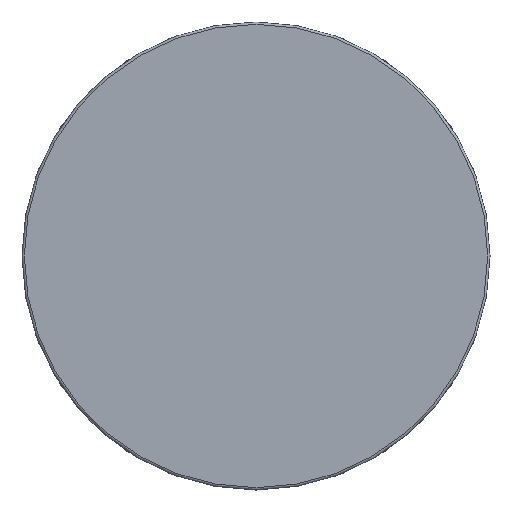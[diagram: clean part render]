
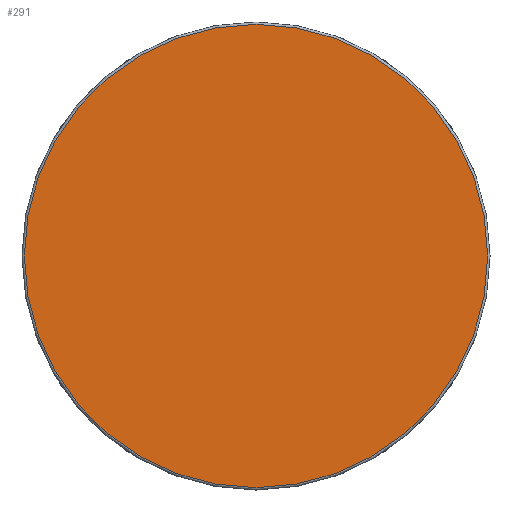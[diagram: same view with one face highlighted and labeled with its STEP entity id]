
A CAD part, front view. The second image highlights one B-rep face of the part: STEP entity #291.
In plain terms, the highlighted planar face has unit normal (0, -1, 0).
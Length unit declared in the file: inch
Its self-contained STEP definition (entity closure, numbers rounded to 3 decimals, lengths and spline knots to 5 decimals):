
#18=PLANE('',#331);
#51=FACE_OUTER_BOUND('',#68,.T.);
#68=EDGE_LOOP('',(#215,#216));
#86=CIRCLE('',#323,0.5835);
#90=CIRCLE('',#327,0.5835);
#124=VERTEX_POINT('',#576);
#125=VERTEX_POINT('',#577);
#157=EDGE_CURVE('',#124,#125,#86,.T.);
#161=EDGE_CURVE('',#125,#124,#90,.T.);
#215=ORIENTED_EDGE('',*,*,#157,.F.);
#216=ORIENTED_EDGE('',*,*,#161,.F.);
#291=ADVANCED_FACE('',(#51),#18,.T.);
#323=AXIS2_PLACEMENT_3D('',#578,#382,#383);
#327=AXIS2_PLACEMENT_3D('',#584,#390,#391);
#331=AXIS2_PLACEMENT_3D('',#591,#399,#400);
#382=DIRECTION('center_axis',(0.,1.,0.));
#383=DIRECTION('ref_axis',(0.,0.,1.));
#390=DIRECTION('center_axis',(0.,1.,0.));
#391=DIRECTION('ref_axis',(0.,0.,1.));
#399=DIRECTION('center_axis',(0.,-1.,0.));
#400=DIRECTION('ref_axis',(0.,0.,-1.));
#576=CARTESIAN_POINT('',(0.,0.,-0.5835));
#577=CARTESIAN_POINT('',(0.,0.,0.5835));
#578=CARTESIAN_POINT('Origin',(0.,0.,0.));
#584=CARTESIAN_POINT('Origin',(0.,0.,0.));
#591=CARTESIAN_POINT('Origin',(0.,0.,0.));
